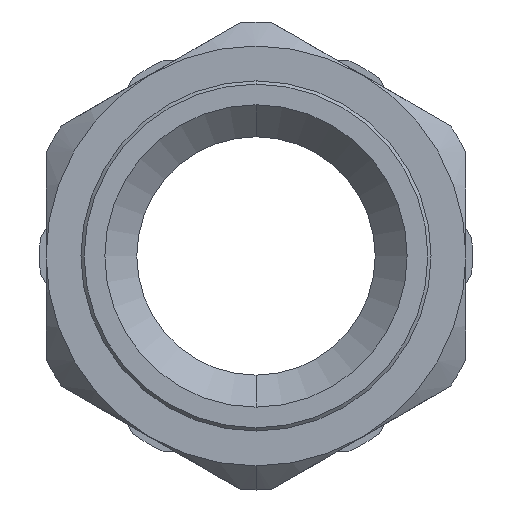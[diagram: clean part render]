
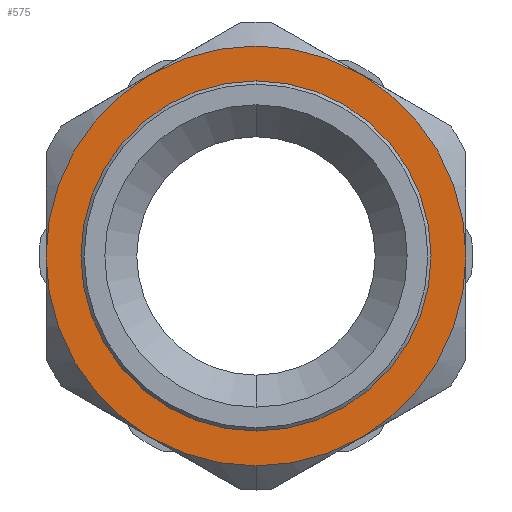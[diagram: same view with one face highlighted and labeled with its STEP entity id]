
A CAD part, front view. The second image highlights one B-rep face of the part: STEP entity #575.
In plain terms, the highlighted planar face has unit normal (0, -1, 0).
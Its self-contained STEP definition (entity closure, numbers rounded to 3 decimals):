
#46 = DIRECTION ( 'NONE',  ( 0., 0., 1. ) ) ;
#47 = DIRECTION ( 'NONE',  ( 0., 1., 0. ) ) ;
#58 = DIRECTION ( 'NONE',  ( 0., 0., -1. ) ) ;
#117 = DIRECTION ( 'NONE',  ( 0., -1., 0. ) ) ;
#119 = CARTESIAN_POINT ( 'NONE',  ( 0., 1., 0. ) ) ;
#141 = PLANE ( 'NONE',  #726 ) ;
#174 = CARTESIAN_POINT ( 'NONE',  ( -36.225, 1., 0. ) ) ;
#299 = EDGE_LOOP ( 'NONE', ( #402, #403 ) ) ;
#349 = EDGE_LOOP ( 'NONE', ( #479, #481, #482, #480, #448, #449, #496 ) ) ;
#402 = ORIENTED_EDGE ( 'NONE', *, *, #628, .F. ) ;
#403 = ORIENTED_EDGE ( 'NONE', *, *, #672, .F. ) ;
#448 = ORIENTED_EDGE ( 'NONE', *, *, #567, .T. ) ;
#449 = ORIENTED_EDGE ( 'NONE', *, *, #667, .T. ) ;
#479 = ORIENTED_EDGE ( 'NONE', *, *, #670, .T. ) ;
#480 = ORIENTED_EDGE ( 'NONE', *, *, #639, .T. ) ;
#481 = ORIENTED_EDGE ( 'NONE', *, *, #700, .T. ) ;
#482 = ORIENTED_EDGE ( 'NONE', *, *, #671, .T. ) ;
#496 = ORIENTED_EDGE ( 'NONE', *, *, #641, .T. ) ;
#530 = AXIS2_PLACEMENT_3D ( 'NONE', #1493, #1560, #1539 ) ;
#532 = CIRCLE ( 'NONE', #774, 32.5 ) ;
#567 = EDGE_CURVE ( 'NONE', #1130, #849, #532, .T. ) ;
#575 = ADVANCED_FACE ( 'NONE', ( #731, #734 ), #141, .F. ) ;
#628 = EDGE_CURVE ( 'NONE', #1110, #955, #1345, .T. ) ;
#639 = EDGE_CURVE ( 'NONE', #872, #1130, #1351, .T. ) ;
#641 = EDGE_CURVE ( 'NONE', #1099, #1107, #1353, .T. ) ;
#667 = EDGE_CURVE ( 'NONE', #849, #1099, #1366, .T. ) ;
#670 = EDGE_CURVE ( 'NONE', #1107, #1133, #1368, .T. ) ;
#671 = EDGE_CURVE ( 'NONE', #941, #872, #1369, .T. ) ;
#672 = EDGE_CURVE ( 'NONE', #955, #1110, #1370, .T. ) ;
#700 = EDGE_CURVE ( 'NONE', #1133, #941, #1380, .T. ) ;
#726 = AXIS2_PLACEMENT_3D ( 'NONE', #174, #47, #46 ) ;
#731 = FACE_BOUND ( 'NONE', #299, .T. ) ;
#734 = FACE_OUTER_BOUND ( 'NONE', #349, .T. ) ;
#774 = AXIS2_PLACEMENT_3D ( 'NONE', #119, #117, #58 ) ;
#849 = VERTEX_POINT ( 'NONE', #2262 ) ;
#872 = VERTEX_POINT ( 'NONE', #2266 ) ;
#941 = VERTEX_POINT ( 'NONE', #2290 ) ;
#955 = VERTEX_POINT ( 'NONE', #2287 ) ;
#1099 = VERTEX_POINT ( 'NONE', #2082 ) ;
#1107 = VERTEX_POINT ( 'NONE', #2075 ) ;
#1110 = VERTEX_POINT ( 'NONE', #2072 ) ;
#1130 = VERTEX_POINT ( 'NONE', #2057 ) ;
#1133 = VERTEX_POINT ( 'NONE', #1909 ) ;
#1345 = CIRCLE ( 'NONE', #1835, 27.1 ) ;
#1351 = CIRCLE ( 'NONE', #530, 32.5 ) ;
#1353 = CIRCLE ( 'NONE', #2117, 32.5 ) ;
#1366 = CIRCLE ( 'NONE', #1576, 32.5 ) ;
#1368 = CIRCLE ( 'NONE', #1594, 32.5 ) ;
#1369 = CIRCLE ( 'NONE', #1595, 32.5 ) ;
#1370 = CIRCLE ( 'NONE', #1596, 27.1 ) ;
#1380 = CIRCLE ( 'NONE', #1625, 32.5 ) ;
#1493 = CARTESIAN_POINT ( 'NONE',  ( 0., 1., 0. ) ) ;
#1522 = DIRECTION ( 'NONE',  ( 0., -1., 0. ) ) ;
#1539 = DIRECTION ( 'NONE',  ( 0., 0., -1. ) ) ;
#1560 = DIRECTION ( 'NONE',  ( 0., -1., 0. ) ) ;
#1576 = AXIS2_PLACEMENT_3D ( 'NONE', #1770, #1795, #1801 ) ;
#1584 = DIRECTION ( 'NONE',  ( 0., 0., -1. ) ) ;
#1594 = AXIS2_PLACEMENT_3D ( 'NONE', #1810, #1771, #1828 ) ;
#1595 = AXIS2_PLACEMENT_3D ( 'NONE', #1772, #1843, #1815 ) ;
#1596 = AXIS2_PLACEMENT_3D ( 'NONE', #1782, #1846, #1831 ) ;
#1611 = CARTESIAN_POINT ( 'NONE',  ( 0., 1., 0. ) ) ;
#1625 = AXIS2_PLACEMENT_3D ( 'NONE', #2168, #2188, #2189 ) ;
#1770 = CARTESIAN_POINT ( 'NONE',  ( 0., 1., 0. ) ) ;
#1771 = DIRECTION ( 'NONE',  ( 0., -1., 0. ) ) ;
#1772 = CARTESIAN_POINT ( 'NONE',  ( 0., 1., 0. ) ) ;
#1782 = CARTESIAN_POINT ( 'NONE',  ( 0., 1., 0. ) ) ;
#1795 = DIRECTION ( 'NONE',  ( 0., -1., 0. ) ) ;
#1801 = DIRECTION ( 'NONE',  ( 0., 0., -1. ) ) ;
#1810 = CARTESIAN_POINT ( 'NONE',  ( 0., 1., 0. ) ) ;
#1815 = DIRECTION ( 'NONE',  ( 0., 0., -1. ) ) ;
#1828 = DIRECTION ( 'NONE',  ( 0., 0., -1. ) ) ;
#1831 = DIRECTION ( 'NONE',  ( 0., 0., -1. ) ) ;
#1835 = AXIS2_PLACEMENT_3D ( 'NONE', #2358, #2386, #2367 ) ;
#1843 = DIRECTION ( 'NONE',  ( 0., -1., 0. ) ) ;
#1846 = DIRECTION ( 'NONE',  ( 0., -1., 0. ) ) ;
#1909 = CARTESIAN_POINT ( 'NONE',  ( 16.25, 1., 28.146 ) ) ;
#2057 = CARTESIAN_POINT ( 'NONE',  ( -16.25, 1., -28.146 ) ) ;
#2072 = CARTESIAN_POINT ( 'NONE',  ( 0., 1., -27.1 ) ) ;
#2075 = CARTESIAN_POINT ( 'NONE',  ( 32.5, 1., 0. ) ) ;
#2082 = CARTESIAN_POINT ( 'NONE',  ( 16.25, 1., -28.146 ) ) ;
#2117 = AXIS2_PLACEMENT_3D ( 'NONE', #1611, #1522, #1584 ) ;
#2168 = CARTESIAN_POINT ( 'NONE',  ( 0., 1., 0. ) ) ;
#2188 = DIRECTION ( 'NONE',  ( 0., -1., 0. ) ) ;
#2189 = DIRECTION ( 'NONE',  ( 0., 0., -1. ) ) ;
#2262 = CARTESIAN_POINT ( 'NONE',  ( 0., 1., -32.5 ) ) ;
#2266 = CARTESIAN_POINT ( 'NONE',  ( -32.5, 1., 0. ) ) ;
#2287 = CARTESIAN_POINT ( 'NONE',  ( 0., 1., 27.1 ) ) ;
#2290 = CARTESIAN_POINT ( 'NONE',  ( -16.25, 1., 28.146 ) ) ;
#2358 = CARTESIAN_POINT ( 'NONE',  ( 0., 1., 0. ) ) ;
#2367 = DIRECTION ( 'NONE',  ( 0., 0., -1. ) ) ;
#2386 = DIRECTION ( 'NONE',  ( 0., -1., 0. ) ) ;
